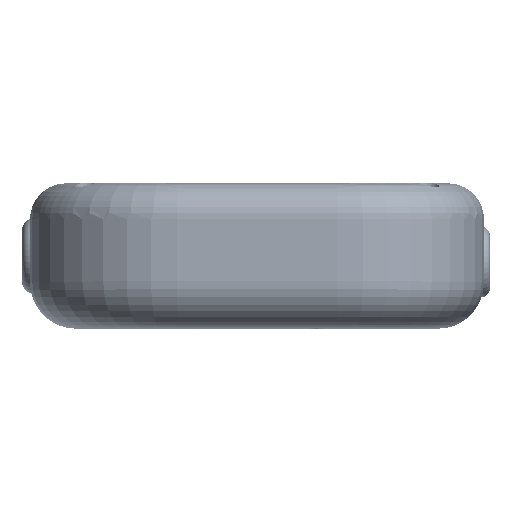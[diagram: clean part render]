
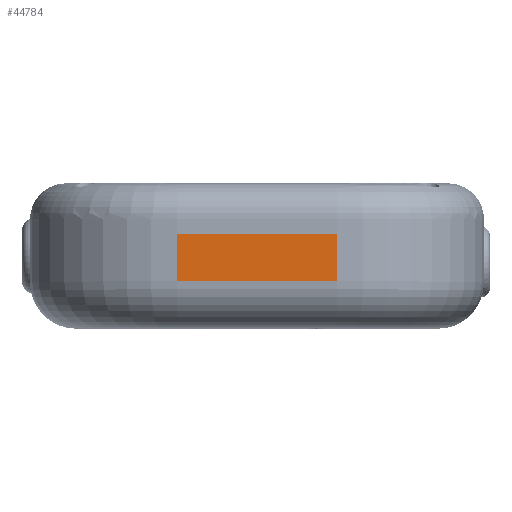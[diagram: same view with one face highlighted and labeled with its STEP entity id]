
A CAD part, top view. The second image highlights one B-rep face of the part: STEP entity #44784.
In plain terms, the highlighted planar face has unit normal (0, 0, 1).
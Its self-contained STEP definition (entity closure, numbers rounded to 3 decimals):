
#40168 = CYLINDRICAL_SURFACE('',#40169,9.2);
#40169 = AXIS2_PLACEMENT_3D('',#40170,#40171,#40172);
#40170 = CARTESIAN_POINT('',(16.,-5.2,67.));
#40171 = DIRECTION('',(-1.,-0.,-0.));
#40172 = DIRECTION('',(0.,-1.,0.));
#40745 = PLANE('',#40746);
#40746 = AXIS2_PLACEMENT_3D('',#40747,#40748,#40749);
#40747 = CARTESIAN_POINT('',(0.,4.2,0.));
#40748 = DIRECTION('',(0.,1.,0.));
#40749 = DIRECTION('',(0.,-0.,1.));
#40825 = CYLINDRICAL_SURFACE('',#40826,29.2);
#40826 = AXIS2_PLACEMENT_3D('',#40827,#40828,#40829);
#40827 = CARTESIAN_POINT('',(-16.,-14.4,47.));
#40828 = DIRECTION('',(0.,1.,0.));
#40829 = DIRECTION('',(-1.,0.,0.));
#40841 = VERTEX_POINT('',#40842);
#40842 = CARTESIAN_POINT('',(-16.,-5.2,76.2));
#42712 = VERTEX_POINT('',#42713);
#42713 = CARTESIAN_POINT('',(16.,-5.2,76.2));
#42728 = CYLINDRICAL_SURFACE('',#42729,29.2);
#42729 = AXIS2_PLACEMENT_3D('',#42730,#42731,#42732);
#42730 = CARTESIAN_POINT('',(16.,-14.4,47.));
#42731 = DIRECTION('',(0.,1.,0.));
#42732 = DIRECTION('',(1.,0.,-0.));
#42766 = EDGE_CURVE('',#42712,#40841,#42767,.T.);
#42767 = SURFACE_CURVE('',#42768,(#42772,#42779),.PCURVE_S1.);
#42768 = LINE('',#42769,#42770);
#42769 = CARTESIAN_POINT('',(16.,-5.2,76.2));
#42770 = VECTOR('',#42771,1.);
#42771 = DIRECTION('',(-1.,-0.,-0.));
#42772 = PCURVE('',#40168,#42773);
#42773 = DEFINITIONAL_REPRESENTATION('',(#42774),#42778);
#42774 = LINE('',#42775,#42776);
#42775 = CARTESIAN_POINT('',(1.571,0.));
#42776 = VECTOR('',#42777,1.);
#42777 = DIRECTION('',(0.,1.));
#42778 = ( GEOMETRIC_REPRESENTATION_CONTEXT(2) 
PARAMETRIC_REPRESENTATION_CONTEXT() REPRESENTATION_CONTEXT('2D SPACE',''
  ) );
#42779 = PCURVE('',#42780,#42785);
#42780 = PLANE('',#42781);
#42781 = AXIS2_PLACEMENT_3D('',#42782,#42783,#42784);
#42782 = CARTESIAN_POINT('',(-45.2,-14.4,76.2));
#42783 = DIRECTION('',(0.,0.,1.));
#42784 = DIRECTION('',(1.,0.,-0.));
#42785 = DEFINITIONAL_REPRESENTATION('',(#42786),#42790);
#42786 = LINE('',#42787,#42788);
#42787 = CARTESIAN_POINT('',(61.2,9.2));
#42788 = VECTOR('',#42789,1.);
#42789 = DIRECTION('',(-1.,0.));
#42790 = ( GEOMETRIC_REPRESENTATION_CONTEXT(2) 
PARAMETRIC_REPRESENTATION_CONTEXT() REPRESENTATION_CONTEXT('2D SPACE',''
  ) );
#43179 = VERTEX_POINT('',#43180);
#43180 = CARTESIAN_POINT('',(-16.,4.2,76.2));
#43202 = EDGE_CURVE('',#43203,#43179,#43205,.T.);
#43203 = VERTEX_POINT('',#43204);
#43204 = CARTESIAN_POINT('',(16.,4.2,76.2));
#43205 = SURFACE_CURVE('',#43206,(#43210,#43217),.PCURVE_S1.);
#43206 = LINE('',#43207,#43208);
#43207 = CARTESIAN_POINT('',(-22.6,4.2,76.2));
#43208 = VECTOR('',#43209,1.);
#43209 = DIRECTION('',(-1.,0.,0.));
#43210 = PCURVE('',#40745,#43211);
#43211 = DEFINITIONAL_REPRESENTATION('',(#43212),#43216);
#43212 = LINE('',#43213,#43214);
#43213 = CARTESIAN_POINT('',(76.2,-22.6));
#43214 = VECTOR('',#43215,1.);
#43215 = DIRECTION('',(0.,-1.));
#43216 = ( GEOMETRIC_REPRESENTATION_CONTEXT(2) 
PARAMETRIC_REPRESENTATION_CONTEXT() REPRESENTATION_CONTEXT('2D SPACE',''
  ) );
#43217 = PCURVE('',#42780,#43218);
#43218 = DEFINITIONAL_REPRESENTATION('',(#43219),#43223);
#43219 = LINE('',#43220,#43221);
#43220 = CARTESIAN_POINT('',(22.6,18.6));
#43221 = VECTOR('',#43222,1.);
#43222 = DIRECTION('',(-1.,0.));
#43223 = ( GEOMETRIC_REPRESENTATION_CONTEXT(2) 
PARAMETRIC_REPRESENTATION_CONTEXT() REPRESENTATION_CONTEXT('2D SPACE',''
  ) );
#43406 = EDGE_CURVE('',#40841,#43179,#43407,.T.);
#43407 = SURFACE_CURVE('',#43408,(#43412,#43419),.PCURVE_S1.);
#43408 = LINE('',#43409,#43410);
#43409 = CARTESIAN_POINT('',(-16.,-14.4,76.2));
#43410 = VECTOR('',#43411,1.);
#43411 = DIRECTION('',(0.,1.,0.));
#43412 = PCURVE('',#40825,#43413);
#43413 = DEFINITIONAL_REPRESENTATION('',(#43414),#43418);
#43414 = LINE('',#43415,#43416);
#43415 = CARTESIAN_POINT('',(1.571,0.));
#43416 = VECTOR('',#43417,1.);
#43417 = DIRECTION('',(0.,1.));
#43418 = ( GEOMETRIC_REPRESENTATION_CONTEXT(2) 
PARAMETRIC_REPRESENTATION_CONTEXT() REPRESENTATION_CONTEXT('2D SPACE',''
  ) );
#43419 = PCURVE('',#42780,#43420);
#43420 = DEFINITIONAL_REPRESENTATION('',(#43421),#43425);
#43421 = LINE('',#43422,#43423);
#43422 = CARTESIAN_POINT('',(29.2,0.));
#43423 = VECTOR('',#43424,1.);
#43424 = DIRECTION('',(0.,1.));
#43425 = ( GEOMETRIC_REPRESENTATION_CONTEXT(2) 
PARAMETRIC_REPRESENTATION_CONTEXT() REPRESENTATION_CONTEXT('2D SPACE',''
  ) );
#44762 = EDGE_CURVE('',#42712,#43203,#44763,.T.);
#44763 = SURFACE_CURVE('',#44764,(#44768,#44775),.PCURVE_S1.);
#44764 = LINE('',#44765,#44766);
#44765 = CARTESIAN_POINT('',(16.,-14.4,76.2));
#44766 = VECTOR('',#44767,1.);
#44767 = DIRECTION('',(0.,1.,0.));
#44768 = PCURVE('',#42728,#44769);
#44769 = DEFINITIONAL_REPRESENTATION('',(#44770),#44774);
#44770 = LINE('',#44771,#44772);
#44771 = CARTESIAN_POINT('',(4.712,0.));
#44772 = VECTOR('',#44773,1.);
#44773 = DIRECTION('',(-0.,1.));
#44774 = ( GEOMETRIC_REPRESENTATION_CONTEXT(2) 
PARAMETRIC_REPRESENTATION_CONTEXT() REPRESENTATION_CONTEXT('2D SPACE',''
  ) );
#44775 = PCURVE('',#42780,#44776);
#44776 = DEFINITIONAL_REPRESENTATION('',(#44777),#44781);
#44777 = LINE('',#44778,#44779);
#44778 = CARTESIAN_POINT('',(61.2,0.));
#44779 = VECTOR('',#44780,1.);
#44780 = DIRECTION('',(0.,1.));
#44781 = ( GEOMETRIC_REPRESENTATION_CONTEXT(2) 
PARAMETRIC_REPRESENTATION_CONTEXT() REPRESENTATION_CONTEXT('2D SPACE',''
  ) );
#44784 = ADVANCED_FACE('',(#44785),#42780,.T.);
#44785 = FACE_BOUND('',#44786,.T.);
#44786 = EDGE_LOOP('',(#44787,#44788,#44789,#44790));
#44787 = ORIENTED_EDGE('',*,*,#43406,.F.);
#44788 = ORIENTED_EDGE('',*,*,#42766,.F.);
#44789 = ORIENTED_EDGE('',*,*,#44762,.T.);
#44790 = ORIENTED_EDGE('',*,*,#43202,.T.);
